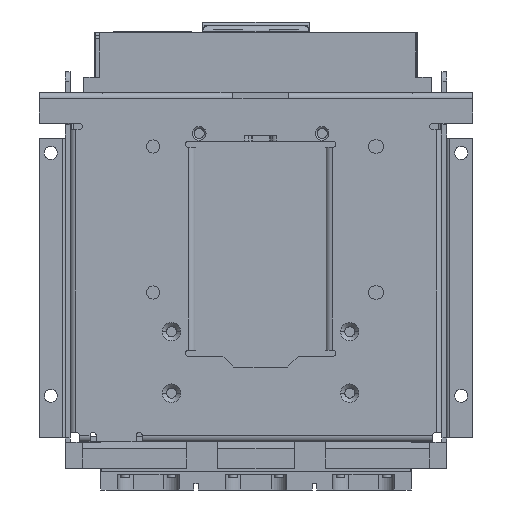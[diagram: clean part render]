
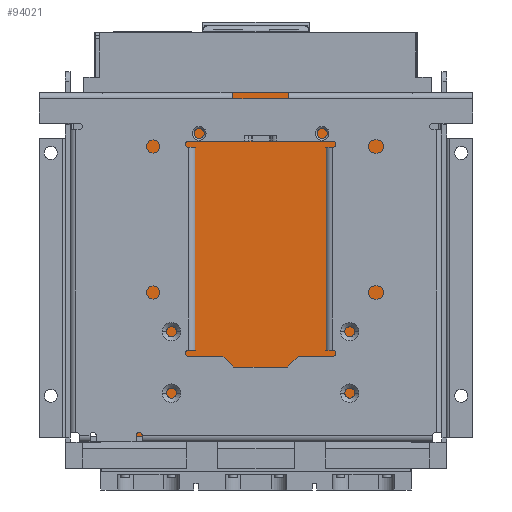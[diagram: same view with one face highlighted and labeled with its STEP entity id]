
A CAD part, front view. The second image highlights one B-rep face of the part: STEP entity #94021.
In plain terms, the highlighted planar face has unit normal (0, -1, 0).
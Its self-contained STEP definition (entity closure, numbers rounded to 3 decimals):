
#495 = EDGE_CURVE ( 'NONE', #20617, #77604, #14616, .T. ) ;
#4584 = CARTESIAN_POINT ( 'NONE',  ( -100., -167.5, 62. ) ) ;
#8574 = DIRECTION ( 'NONE',  ( 0., 0., 1. ) ) ;
#14616 = LINE ( 'NONE', #54668, #126498 ) ;
#18305 = FACE_OUTER_BOUND ( 'NONE', #79639, .T. ) ;
#18554 = DIRECTION ( 'NONE',  ( 1., 0., 0. ) ) ;
#19611 = EDGE_CURVE ( 'NONE', #77604, #59055, #80998, .T. ) ;
#20617 = VERTEX_POINT ( 'NONE', #4584 ) ;
#31256 = DIRECTION ( 'NONE',  ( -1., 0., 0. ) ) ;
#41722 = DIRECTION ( 'NONE',  ( 0., 0., -1. ) ) ;
#43391 = CARTESIAN_POINT ( 'NONE',  ( -100., -167.5, -175. ) ) ;
#47623 = EDGE_CURVE ( 'NONE', #102814, #20617, #115890, .T. ) ;
#51601 = LINE ( 'NONE', #83923, #146097 ) ;
#54668 = CARTESIAN_POINT ( 'NONE',  ( -100., -167.5, 266.216 ) ) ;
#59055 = VERTEX_POINT ( 'NONE', #99088 ) ;
#72577 = ORIENTED_EDGE ( 'NONE', *, *, #142810, .F. ) ;
#77604 = VERTEX_POINT ( 'NONE', #152996 ) ;
#79639 = EDGE_LOOP ( 'NONE', ( #72577, #87422, #136917, #110158 ) ) ;
#80294 = CARTESIAN_POINT ( 'NONE',  ( -100., -167.5, 62. ) ) ;
#80998 = LINE ( 'NONE', #43391, #86917 ) ;
#82514 = PLANE ( 'NONE',  #154038 ) ;
#83923 = CARTESIAN_POINT ( 'NONE',  ( 102., -167.5, 266.216 ) ) ;
#86917 = VECTOR ( 'NONE', #18554, 1000. ) ;
#87422 = ORIENTED_EDGE ( 'NONE', *, *, #47623, .T. ) ;
#94021 = ADVANCED_FACE ( 'NONE', ( #18305 ), #82514, .F. ) ;
#96332 = DIRECTION ( 'NONE',  ( 0., 0., -1. ) ) ;
#99088 = CARTESIAN_POINT ( 'NONE',  ( 102., -167.5, -175. ) ) ;
#102814 = VERTEX_POINT ( 'NONE', #133641 ) ;
#110158 = ORIENTED_EDGE ( 'NONE', *, *, #19611, .T. ) ;
#115890 = LINE ( 'NONE', #80294, #146665 ) ;
#126498 = VECTOR ( 'NONE', #41722, 1000. ) ;
#133641 = CARTESIAN_POINT ( 'NONE',  ( 102., -167.5, 62. ) ) ;
#136917 = ORIENTED_EDGE ( 'NONE', *, *, #495, .T. ) ;
#142810 = EDGE_CURVE ( 'NONE', #102814, #59055, #51601, .T. ) ;
#143995 = CARTESIAN_POINT ( 'NONE',  ( -100., -167.5, 266.216 ) ) ;
#146097 = VECTOR ( 'NONE', #96332, 1000. ) ;
#146665 = VECTOR ( 'NONE', #31256, 1000. ) ;
#152996 = CARTESIAN_POINT ( 'NONE',  ( -100., -167.5, -175. ) ) ;
#154038 = AXIS2_PLACEMENT_3D ( 'NONE', #143995, #156340, #8574 ) ;
#156340 = DIRECTION ( 'NONE',  ( 0., 1., 0. ) ) ;
